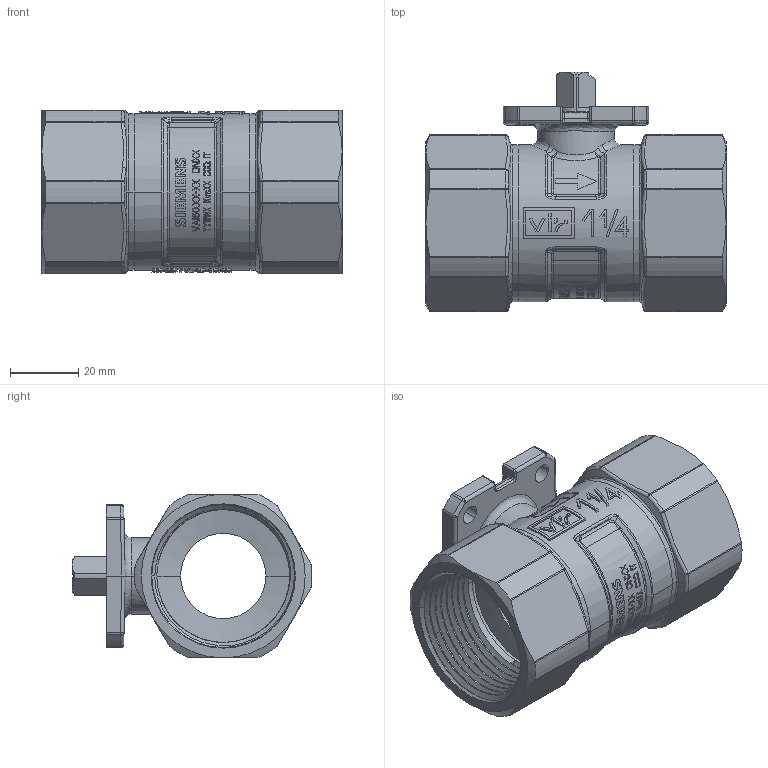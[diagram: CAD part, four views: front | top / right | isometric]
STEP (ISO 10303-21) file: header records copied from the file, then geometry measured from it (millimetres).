
FILE_DESCRIPTION((''),'2;1');
FILE_NAME('H980F0032_2119_ASM','2012-09-21T',('61graziano'),('Vir spa'),'PRO/ENGINEER BY PARAMETRIC TECHNOLOGY CORPORATION, 2010280','PRO/ENGINEER BY PARAMETRIC TECHNOLOGY CORPORATION, 2010280','');
FILE_SCHEMA(('CONFIG_CONTROL_DESIGN'));
Products named in the file (9): CC980S032_1170_SIEM_ON-OFF; CXG980025_1330; CXP980025_92; CXGOR2037_692; CM98GF032_109; CXGOR3112_692; CXH30M025_155; C300W_025_XK; H980F0032_2119_ASM
Assembly tree (12 placements, depth 2):
  H980F0032_2119_ASM
    CC980S032_1170_SIEM_ON-OFF
    CXG980025_1330
    CXP980025_92
    CXGOR2037_692  x2
    CM98GF032_109  x2
    CXGOR3112_692  x2
    CXH30M025_155  x2
    C300W_025_XK
Bounding box: 88 x 70.28 x 48 mm (x, y, z)
Volume: 87875.6 mm3; surface area: 67038.2 mm2
Topology: 12 solids, 19 shells, 2006 faces, 5345 edges, 3454 vertices
Faces by surface type: plane 1346, cylinder 334, bspline 118, cone 92, torus 78, sphere 38
Entity records: 67540 total; most frequent: CARTESIAN_POINT 24811, ORIENTED_EDGE 9912, DIRECTION 7309, EDGE_CURVE 4966, VERTEX_POINT 3228, AXIS2_PLACEMENT_3D 2702, B_SPLINE_CURVE_WITH_KNOTS 2131, EDGE_LOOP 1955
